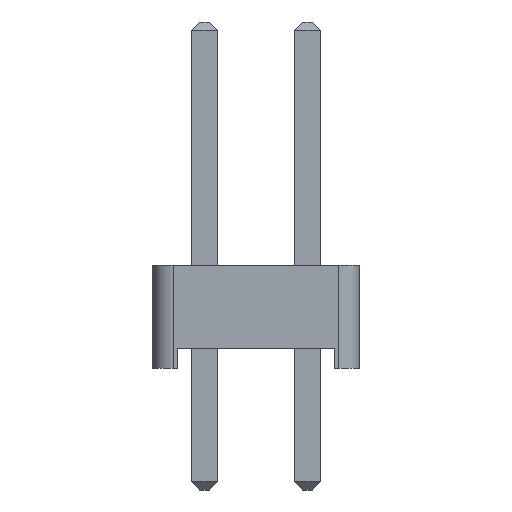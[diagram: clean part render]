
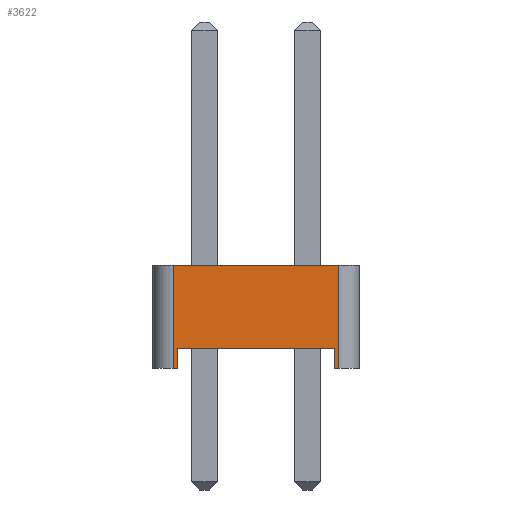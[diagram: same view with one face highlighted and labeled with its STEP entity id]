
A CAD part, left-side view. The second image highlights one B-rep face of the part: STEP entity #3622.
In plain terms, the highlighted planar face has unit normal (-1, 0, 0).
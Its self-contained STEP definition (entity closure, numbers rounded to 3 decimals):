
#3362 = VERTEX_POINT('',#3363);
#3363 = CARTESIAN_POINT('',(-1.27,2.04,0.));
#3371 = PLANE('',#3372);
#3372 = AXIS2_PLACEMENT_3D('',#3373,#3374,#3375);
#3373 = CARTESIAN_POINT('',(0.,0.,0.));
#3374 = DIRECTION('',(-0.,-0.,-1.));
#3375 = DIRECTION('',(-1.,0.,0.));
#3387 = CYLINDRICAL_SURFACE('',#3388,0.5);
#3388 = AXIS2_PLACEMENT_3D('',#3389,#3390,#3391);
#3389 = CARTESIAN_POINT('',(-0.77,2.04,0.));
#3390 = DIRECTION('',(0.,0.,1.));
#3391 = DIRECTION('',(0.,1.,0.));
#3489 = VERTEX_POINT('',#3490);
#3490 = CARTESIAN_POINT('',(-1.27,1.94,0.));
#3504 = PLANE('',#3505);
#3505 = AXIS2_PLACEMENT_3D('',#3506,#3507,#3508);
#3506 = CARTESIAN_POINT('',(1.27,1.94,0.));
#3507 = DIRECTION('',(0.,-1.,0.));
#3508 = DIRECTION('',(-1.,0.,0.));
#3516 = EDGE_CURVE('',#3489,#3362,#3517,.T.);
#3517 = SURFACE_CURVE('',#3518,(#3522,#3529),.PCURVE_S1.);
#3518 = LINE('',#3519,#3520);
#3519 = CARTESIAN_POINT('',(-1.27,-2.54,0.));
#3520 = VECTOR('',#3521,1.);
#3521 = DIRECTION('',(0.,1.,0.));
#3522 = PCURVE('',#3371,#3523);
#3523 = DEFINITIONAL_REPRESENTATION('',(#3524),#3528);
#3524 = LINE('',#3525,#3526);
#3525 = CARTESIAN_POINT('',(1.27,-2.54));
#3526 = VECTOR('',#3527,1.);
#3527 = DIRECTION('',(0.,1.));
#3528 = ( GEOMETRIC_REPRESENTATION_CONTEXT(2) 
PARAMETRIC_REPRESENTATION_CONTEXT() REPRESENTATION_CONTEXT('2D SPACE',''
  ) );
#3529 = PCURVE('',#3530,#3535);
#3530 = PLANE('',#3531);
#3531 = AXIS2_PLACEMENT_3D('',#3532,#3533,#3534);
#3532 = CARTESIAN_POINT('',(-1.27,-2.54,0.));
#3533 = DIRECTION('',(-1.,0.,0.));
#3534 = DIRECTION('',(0.,1.,0.));
#3535 = DEFINITIONAL_REPRESENTATION('',(#3536),#3540);
#3536 = LINE('',#3537,#3538);
#3537 = CARTESIAN_POINT('',(0.,0.));
#3538 = VECTOR('',#3539,1.);
#3539 = DIRECTION('',(1.,0.));
#3540 = ( GEOMETRIC_REPRESENTATION_CONTEXT(2) 
PARAMETRIC_REPRESENTATION_CONTEXT() REPRESENTATION_CONTEXT('2D SPACE',''
  ) );
#3546 = EDGE_CURVE('',#3362,#3547,#3549,.T.);
#3547 = VERTEX_POINT('',#3548);
#3548 = CARTESIAN_POINT('',(-1.27,2.04,2.54));
#3549 = SURFACE_CURVE('',#3550,(#3554,#3561),.PCURVE_S1.);
#3550 = LINE('',#3551,#3552);
#3551 = CARTESIAN_POINT('',(-1.27,2.04,0.));
#3552 = VECTOR('',#3553,1.);
#3553 = DIRECTION('',(0.,0.,1.));
#3554 = PCURVE('',#3387,#3555);
#3555 = DEFINITIONAL_REPRESENTATION('',(#3556),#3560);
#3556 = LINE('',#3557,#3558);
#3557 = CARTESIAN_POINT('',(1.571,0.));
#3558 = VECTOR('',#3559,1.);
#3559 = DIRECTION('',(0.,1.));
#3560 = ( GEOMETRIC_REPRESENTATION_CONTEXT(2) 
PARAMETRIC_REPRESENTATION_CONTEXT() REPRESENTATION_CONTEXT('2D SPACE',''
  ) );
#3561 = PCURVE('',#3530,#3562);
#3562 = DEFINITIONAL_REPRESENTATION('',(#3563),#3567);
#3563 = LINE('',#3564,#3565);
#3564 = CARTESIAN_POINT('',(4.58,0.));
#3565 = VECTOR('',#3566,1.);
#3566 = DIRECTION('',(0.,-1.));
#3567 = ( GEOMETRIC_REPRESENTATION_CONTEXT(2) 
PARAMETRIC_REPRESENTATION_CONTEXT() REPRESENTATION_CONTEXT('2D SPACE',''
  ) );
#3586 = PLANE('',#3587);
#3587 = AXIS2_PLACEMENT_3D('',#3588,#3589,#3590);
#3588 = CARTESIAN_POINT('',(0.,0.,2.54));
#3589 = DIRECTION('',(-0.,-0.,-1.));
#3590 = DIRECTION('',(-1.,0.,0.));
#3622 = ADVANCED_FACE('',(#3623),#3530,.T.);
#3623 = FACE_BOUND('',#3624,.T.);
#3624 = EDGE_LOOP('',(#3625,#3655,#3683,#3704,#3705,#3706,#3729,#3757));
#3625 = ORIENTED_EDGE('',*,*,#3626,.F.);
#3626 = EDGE_CURVE('',#3627,#3629,#3631,.T.);
#3627 = VERTEX_POINT('',#3628);
#3628 = CARTESIAN_POINT('',(-1.27,-2.04,0.));
#3629 = VERTEX_POINT('',#3630);
#3630 = CARTESIAN_POINT('',(-1.27,-1.94,0.));
#3631 = SURFACE_CURVE('',#3632,(#3636,#3643),.PCURVE_S1.);
#3632 = LINE('',#3633,#3634);
#3633 = CARTESIAN_POINT('',(-1.27,-2.54,0.));
#3634 = VECTOR('',#3635,1.);
#3635 = DIRECTION('',(0.,1.,0.));
#3636 = PCURVE('',#3530,#3637);
#3637 = DEFINITIONAL_REPRESENTATION('',(#3638),#3642);
#3638 = LINE('',#3639,#3640);
#3639 = CARTESIAN_POINT('',(0.,0.));
#3640 = VECTOR('',#3641,1.);
#3641 = DIRECTION('',(1.,0.));
#3642 = ( GEOMETRIC_REPRESENTATION_CONTEXT(2) 
PARAMETRIC_REPRESENTATION_CONTEXT() REPRESENTATION_CONTEXT('2D SPACE',''
  ) );
#3643 = PCURVE('',#3644,#3649);
#3644 = PLANE('',#3645);
#3645 = AXIS2_PLACEMENT_3D('',#3646,#3647,#3648);
#3646 = CARTESIAN_POINT('',(0.,0.,0.));
#3647 = DIRECTION('',(-0.,-0.,-1.));
#3648 = DIRECTION('',(-1.,0.,0.));
#3649 = DEFINITIONAL_REPRESENTATION('',(#3650),#3654);
#3650 = LINE('',#3651,#3652);
#3651 = CARTESIAN_POINT('',(1.27,-2.54));
#3652 = VECTOR('',#3653,1.);
#3653 = DIRECTION('',(0.,1.));
#3654 = ( GEOMETRIC_REPRESENTATION_CONTEXT(2) 
PARAMETRIC_REPRESENTATION_CONTEXT() REPRESENTATION_CONTEXT('2D SPACE',''
  ) );
#3655 = ORIENTED_EDGE('',*,*,#3656,.T.);
#3656 = EDGE_CURVE('',#3627,#3657,#3659,.T.);
#3657 = VERTEX_POINT('',#3658);
#3658 = CARTESIAN_POINT('',(-1.27,-2.04,2.54));
#3659 = SURFACE_CURVE('',#3660,(#3664,#3671),.PCURVE_S1.);
#3660 = LINE('',#3661,#3662);
#3661 = CARTESIAN_POINT('',(-1.27,-2.04,0.));
#3662 = VECTOR('',#3663,1.);
#3663 = DIRECTION('',(0.,0.,1.));
#3664 = PCURVE('',#3530,#3665);
#3665 = DEFINITIONAL_REPRESENTATION('',(#3666),#3670);
#3666 = LINE('',#3667,#3668);
#3667 = CARTESIAN_POINT('',(0.5,0.));
#3668 = VECTOR('',#3669,1.);
#3669 = DIRECTION('',(0.,-1.));
#3670 = ( GEOMETRIC_REPRESENTATION_CONTEXT(2) 
PARAMETRIC_REPRESENTATION_CONTEXT() REPRESENTATION_CONTEXT('2D SPACE',''
  ) );
#3671 = PCURVE('',#3672,#3677);
#3672 = CYLINDRICAL_SURFACE('',#3673,0.5);
#3673 = AXIS2_PLACEMENT_3D('',#3674,#3675,#3676);
#3674 = CARTESIAN_POINT('',(-0.77,-2.04,0.));
#3675 = DIRECTION('',(0.,0.,1.));
#3676 = DIRECTION('',(0.,-1.,0.));
#3677 = DEFINITIONAL_REPRESENTATION('',(#3678),#3682);
#3678 = LINE('',#3679,#3680);
#3679 = CARTESIAN_POINT('',(-1.571,0.));
#3680 = VECTOR('',#3681,1.);
#3681 = DIRECTION('',(-0.,1.));
#3682 = ( GEOMETRIC_REPRESENTATION_CONTEXT(2) 
PARAMETRIC_REPRESENTATION_CONTEXT() REPRESENTATION_CONTEXT('2D SPACE',''
  ) );
#3683 = ORIENTED_EDGE('',*,*,#3684,.T.);
#3684 = EDGE_CURVE('',#3657,#3547,#3685,.T.);
#3685 = SURFACE_CURVE('',#3686,(#3690,#3697),.PCURVE_S1.);
#3686 = LINE('',#3687,#3688);
#3687 = CARTESIAN_POINT('',(-1.27,-2.54,2.54));
#3688 = VECTOR('',#3689,1.);
#3689 = DIRECTION('',(0.,1.,0.));
#3690 = PCURVE('',#3530,#3691);
#3691 = DEFINITIONAL_REPRESENTATION('',(#3692),#3696);
#3692 = LINE('',#3693,#3694);
#3693 = CARTESIAN_POINT('',(0.,-2.54));
#3694 = VECTOR('',#3695,1.);
#3695 = DIRECTION('',(1.,0.));
#3696 = ( GEOMETRIC_REPRESENTATION_CONTEXT(2) 
PARAMETRIC_REPRESENTATION_CONTEXT() REPRESENTATION_CONTEXT('2D SPACE',''
  ) );
#3697 = PCURVE('',#3586,#3698);
#3698 = DEFINITIONAL_REPRESENTATION('',(#3699),#3703);
#3699 = LINE('',#3700,#3701);
#3700 = CARTESIAN_POINT('',(1.27,-2.54));
#3701 = VECTOR('',#3702,1.);
#3702 = DIRECTION('',(0.,1.));
#3703 = ( GEOMETRIC_REPRESENTATION_CONTEXT(2) 
PARAMETRIC_REPRESENTATION_CONTEXT() REPRESENTATION_CONTEXT('2D SPACE',''
  ) );
#3704 = ORIENTED_EDGE('',*,*,#3546,.F.);
#3705 = ORIENTED_EDGE('',*,*,#3516,.F.);
#3706 = ORIENTED_EDGE('',*,*,#3707,.T.);
#3707 = EDGE_CURVE('',#3489,#3708,#3710,.T.);
#3708 = VERTEX_POINT('',#3709);
#3709 = CARTESIAN_POINT('',(-1.27,1.94,0.5));
#3710 = SURFACE_CURVE('',#3711,(#3715,#3722),.PCURVE_S1.);
#3711 = LINE('',#3712,#3713);
#3712 = CARTESIAN_POINT('',(-1.27,1.94,0.));
#3713 = VECTOR('',#3714,1.);
#3714 = DIRECTION('',(0.,0.,1.));
#3715 = PCURVE('',#3530,#3716);
#3716 = DEFINITIONAL_REPRESENTATION('',(#3717),#3721);
#3717 = LINE('',#3718,#3719);
#3718 = CARTESIAN_POINT('',(4.48,0.));
#3719 = VECTOR('',#3720,1.);
#3720 = DIRECTION('',(0.,-1.));
#3721 = ( GEOMETRIC_REPRESENTATION_CONTEXT(2) 
PARAMETRIC_REPRESENTATION_CONTEXT() REPRESENTATION_CONTEXT('2D SPACE',''
  ) );
#3722 = PCURVE('',#3504,#3723);
#3723 = DEFINITIONAL_REPRESENTATION('',(#3724),#3728);
#3724 = LINE('',#3725,#3726);
#3725 = CARTESIAN_POINT('',(2.54,0.));
#3726 = VECTOR('',#3727,1.);
#3727 = DIRECTION('',(0.,-1.));
#3728 = ( GEOMETRIC_REPRESENTATION_CONTEXT(2) 
PARAMETRIC_REPRESENTATION_CONTEXT() REPRESENTATION_CONTEXT('2D SPACE',''
  ) );
#3729 = ORIENTED_EDGE('',*,*,#3730,.T.);
#3730 = EDGE_CURVE('',#3708,#3731,#3733,.T.);
#3731 = VERTEX_POINT('',#3732);
#3732 = CARTESIAN_POINT('',(-1.27,-1.94,0.5));
#3733 = SURFACE_CURVE('',#3734,(#3738,#3745),.PCURVE_S1.);
#3734 = LINE('',#3735,#3736);
#3735 = CARTESIAN_POINT('',(-1.27,1.94,0.5));
#3736 = VECTOR('',#3737,1.);
#3737 = DIRECTION('',(0.,-1.,0.));
#3738 = PCURVE('',#3530,#3739);
#3739 = DEFINITIONAL_REPRESENTATION('',(#3740),#3744);
#3740 = LINE('',#3741,#3742);
#3741 = CARTESIAN_POINT('',(4.48,-0.5));
#3742 = VECTOR('',#3743,1.);
#3743 = DIRECTION('',(-1.,0.));
#3744 = ( GEOMETRIC_REPRESENTATION_CONTEXT(2) 
PARAMETRIC_REPRESENTATION_CONTEXT() REPRESENTATION_CONTEXT('2D SPACE',''
  ) );
#3745 = PCURVE('',#3746,#3751);
#3746 = PLANE('',#3747);
#3747 = AXIS2_PLACEMENT_3D('',#3748,#3749,#3750);
#3748 = CARTESIAN_POINT('',(0.,0.,0.5));
#3749 = DIRECTION('',(0.,0.,1.));
#3750 = DIRECTION('',(1.,0.,0.));
#3751 = DEFINITIONAL_REPRESENTATION('',(#3752),#3756);
#3752 = LINE('',#3753,#3754);
#3753 = CARTESIAN_POINT('',(-1.27,1.94));
#3754 = VECTOR('',#3755,1.);
#3755 = DIRECTION('',(0.,-1.));
#3756 = ( GEOMETRIC_REPRESENTATION_CONTEXT(2) 
PARAMETRIC_REPRESENTATION_CONTEXT() REPRESENTATION_CONTEXT('2D SPACE',''
  ) );
#3757 = ORIENTED_EDGE('',*,*,#3758,.F.);
#3758 = EDGE_CURVE('',#3629,#3731,#3759,.T.);
#3759 = SURFACE_CURVE('',#3760,(#3764,#3771),.PCURVE_S1.);
#3760 = LINE('',#3761,#3762);
#3761 = CARTESIAN_POINT('',(-1.27,-1.94,0.));
#3762 = VECTOR('',#3763,1.);
#3763 = DIRECTION('',(0.,0.,1.));
#3764 = PCURVE('',#3530,#3765);
#3765 = DEFINITIONAL_REPRESENTATION('',(#3766),#3770);
#3766 = LINE('',#3767,#3768);
#3767 = CARTESIAN_POINT('',(0.6,0.));
#3768 = VECTOR('',#3769,1.);
#3769 = DIRECTION('',(0.,-1.));
#3770 = ( GEOMETRIC_REPRESENTATION_CONTEXT(2) 
PARAMETRIC_REPRESENTATION_CONTEXT() REPRESENTATION_CONTEXT('2D SPACE',''
  ) );
#3771 = PCURVE('',#3772,#3777);
#3772 = PLANE('',#3773);
#3773 = AXIS2_PLACEMENT_3D('',#3774,#3775,#3776);
#3774 = CARTESIAN_POINT('',(-1.27,-1.94,0.));
#3775 = DIRECTION('',(0.,1.,0.));
#3776 = DIRECTION('',(1.,0.,0.));
#3777 = DEFINITIONAL_REPRESENTATION('',(#3778),#3782);
#3778 = LINE('',#3779,#3780);
#3779 = CARTESIAN_POINT('',(0.,0.));
#3780 = VECTOR('',#3781,1.);
#3781 = DIRECTION('',(0.,-1.));
#3782 = ( GEOMETRIC_REPRESENTATION_CONTEXT(2) 
PARAMETRIC_REPRESENTATION_CONTEXT() REPRESENTATION_CONTEXT('2D SPACE',''
  ) );
